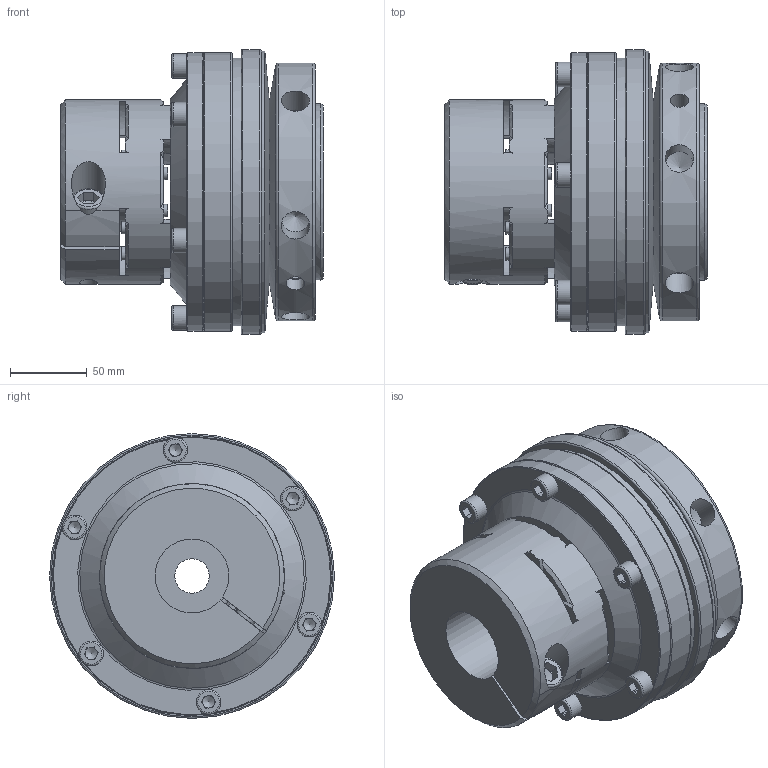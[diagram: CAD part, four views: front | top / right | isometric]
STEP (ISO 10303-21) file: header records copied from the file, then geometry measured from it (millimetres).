
FILE_DESCRIPTION( ( 'Unknown' ), '1' );
FILE_NAME( 'F:/JAKOB-STEP+IGES-Dateien/STEP-Dateien/SKW-EK/SKW-EK 1000.stp', 'Unknown', ( 'Unknown' ), ( 'Unknown' ), 'PSStep 10.1', 'Unknown', ' ' );
FILE_SCHEMA( ( 'AUTOMOTIVE_DESIGN { 1 0 10303 214 1 1 1 1 }' ) );
Length unit declared in the file: millimetre
Products named in the file (1): 27921143
Bounding box: 170.5 x 185 x 185 mm (x, y, z)
Volume: 2561171.2 mm3; surface area: 302447.9 mm2
Topology: 1 solids, 10 shells, 544 faces, 1645 edges, 1063 vertices
Faces by surface type: plane 180, cylinder 125, torus 102, cone 95, sphere 30, bspline 12
Full cylindrical faces by diameter (mm): 8 x8, 8.5 x2, 10 x7, 10.5 x6, 12 x3, 14 x1, 14.5 x1, 15 x1, 16 x6, 18.5 x6, 21 x1, 22 x1, 22.5 x1, 39 x1, 58 x2, 73 x1, 107.7 x1, 109.8 x1, 110 x2, 115 x1, 117 x1, 117.345 x1, 120 x3, 130 x2, 140 x3, 168 x1, 174 x1, 175 x2, 181 x2, 185 x1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
Entity records: 25832 total; most frequent: CARTESIAN_POINT 8506, ORIENTED_EDGE 2674, DIRECTION 2592, EDGE_CURVE 1337, AXIS2_PLACEMENT_3D 1143, VERTEX_POINT 933, EDGE_LOOP 759, FACE_OUTER_BOUND 613
